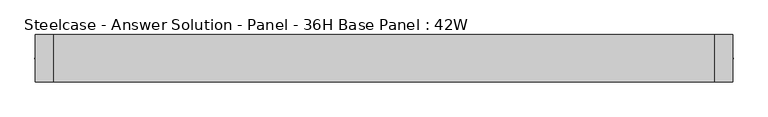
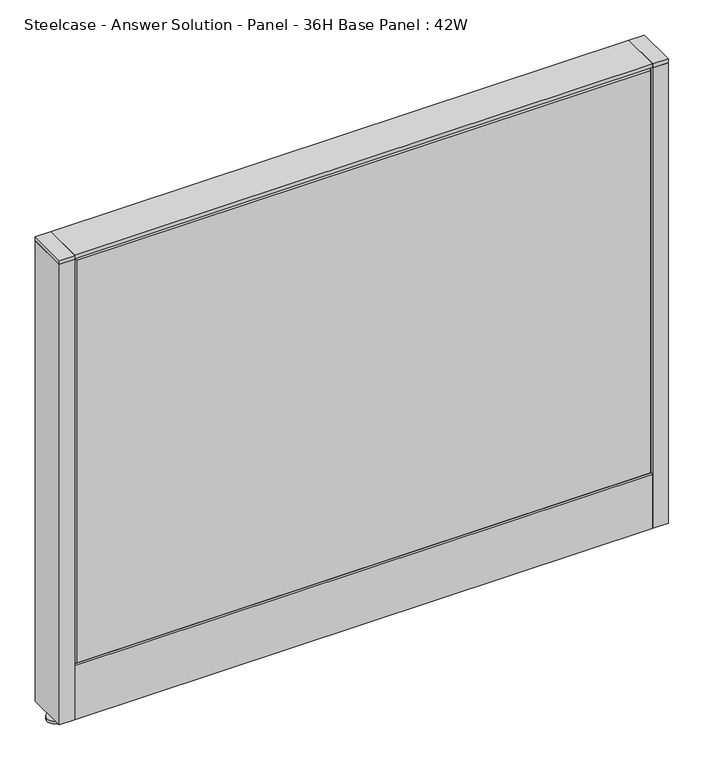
"""IFC4 building model written with IfcOpenShell, lengths in millimetres: furniture geometry, Steelcase - Answer Solution - Panel - 36H Base Panel : 42W."""

from ifc_helpers import new_model, si_unit, point, frame, frame_2d, origin, place, context, project, spatial, polyline, circle_curve, trimmed, segment, composite_curve, outline, extrude, faceted_brep, source, transform, mapped, element, save


def steelcase_answer_solution_panel_36h_base_panel_42w_82232bdf(model_context):
    return source(origin(), model_context, "Body", "SolidModel", [
        extrude(outline(composite_curve([segment(trimmed(circle_curve(frame_2d((547.624, 0.0320214)), 5.08), [point((552.704, 0.0320214))], [point((542.544, 0.0320214))], False, "CARTESIAN"), True, "CONTINUOUS"), segment(trimmed(circle_curve(frame_2d((547.624, 0.0320214)), 5.08), [point((542.544, 0.0320214))], [point((552.704, 0.0320214))], False, "CARTESIAN"), True, "CONTINUOUS")], self_intersect=False)), frame((0.0, 0.0, 5.0799671), z_axis=(0.0, 0.0, 1.0), x_axis=(1.0, 0.0, 0.0)), (0.0, 0.0, 1.0), 10.414),
        extrude(outline(composite_curve([segment(trimmed(circle_curve(frame_2d((547.624, 0.0320214)), 15.24), [point((562.864, 0.0320214))], [point((532.384, 0.0320214))], False, "CARTESIAN"), True, "CONTINUOUS"), segment(trimmed(circle_curve(frame_2d((547.624, 0.0320214)), 15.24), [point((532.384, 0.0320214))], [point((562.864, 0.0320214))], False, "CARTESIAN"), True, "CONTINUOUS")], self_intersect=False)), frame((0.0, 0.0, -3.29e-05), z_axis=(0.0, 0.0, 1.0), x_axis=(1.0, 0.0, 0.0)), (0.0, 0.0, 1.0), 5.08),
        extrude(outline(polyline([(561.975, 38.1320408), (561.975, -38.0679592), (533.4, -38.0679592), (533.4, 38.1320408), (561.975, 38.1320408)])), frame((0.0, 0.0, 913.4348), z_axis=(0.0, 0.0, 1.0), x_axis=(1.0, 0.0, 0.0)), (0.0, 0.0, 1.0), 7.3151671),
        extrude(outline(polyline([(561.975, 38.1320408), (561.975, -38.0679592), (533.4, -38.0679592), (533.4, 38.1320408), (561.975, 38.1320408)])), frame((0.0, 0.0, 15.4939671), z_axis=(0.0, 0.0, 1.0), x_axis=(1.0, 0.0, 0.0)), (0.0, 0.0, 1.0), 897.9408329),
        extrude(outline(composite_curve([segment(trimmed(circle_curve(frame_2d((-547.624, -0.0320214)), 5.08), [point((-552.704, -0.0320214))], [point((-542.544, -0.0320214))], False, "CARTESIAN"), True, "CONTINUOUS"), segment(trimmed(circle_curve(frame_2d((-547.624, -0.0320214)), 5.08), [point((-542.544, -0.0320214))], [point((-552.704, -0.0320214))], False, "CARTESIAN"), True, "CONTINUOUS")], self_intersect=False)), frame((0.0, 0.0, 5.0799671), z_axis=(0.0, 0.0, 1.0), x_axis=(1.0, 0.0, 0.0)), (0.0, 0.0, 1.0), 10.414),
        extrude(outline(composite_curve([segment(trimmed(circle_curve(frame_2d((-547.624, -0.0320214)), 15.24), [point((-562.864, -0.0320214))], [point((-532.384, -0.0320214))], False, "CARTESIAN"), True, "CONTINUOUS"), segment(trimmed(circle_curve(frame_2d((-547.624, -0.0320214)), 15.24), [point((-532.384, -0.0320214))], [point((-562.864, -0.0320214))], False, "CARTESIAN"), True, "CONTINUOUS")], self_intersect=False)), frame((0.0, 0.0, -3.29e-05), z_axis=(0.0, 0.0, 1.0), x_axis=(1.0, 0.0, 0.0)), (0.0, 0.0, 1.0), 5.08),
        extrude(outline(polyline([(-561.975, -38.1320408), (-561.975, 38.0679592), (-533.4, 38.0679592), (-533.4, -38.1320408), (-561.975, -38.1320408)])), frame((0.0, 0.0, 913.4348), z_axis=(0.0, 0.0, 1.0), x_axis=(1.0, 0.0, 0.0)), (0.0, 0.0, 1.0), 7.3151671),
        extrude(outline(polyline([(-561.975, -38.1320408), (-561.975, 38.0679592), (-533.4, 38.0679592), (-533.4, -38.1320408), (-561.975, -38.1320408)])), frame((0.0, 0.0, 15.4939671), z_axis=(0.0, 0.0, 1.0), x_axis=(1.0, 0.0, 0.0)), (0.0, 0.0, 1.0), 897.9408329),
        faceted_brep([(528.574, 38.1635011, 909.574), (528.574, 38.1635011, 125.476), (-528.574, 38.1635011, 125.476), (-528.574, 38.1635011, 909.574), (533.4, 33.3375011, 914.4), (-533.4, 33.3375011, 914.4), (-533.4, 33.3375011, 120.65), (533.4, 33.3375011, 120.65)], [[[0, 1, 2, 3]], [[4, 5, 6, 7]], [[4, 0, 3, 5]], [[5, 3, 2, 6]], [[6, 2, 1, 7]], [[7, 1, 0, 4]]]),
        faceted_brep([(528.574, -38.1635011, 909.574), (-528.574, -38.1635011, 909.574), (-528.574, -38.1635011, 125.476), (528.574, -38.1635011, 125.476), (533.4, -33.3375011, 914.4), (533.4, -33.3375011, 120.65), (-533.4, -33.3375011, 120.65), (-533.4, -33.3375011, 914.4)], [[[0, 1, 2, 3]], [[4, 5, 6, 7]], [[4, 7, 1, 0]], [[7, 6, 2, 1]], [[6, 5, 3, 2]], [[5, 4, 0, 3]]]),
        extrude(outline(polyline([(533.4, 38.1000194), (533.4, -38.1000194), (-533.4, -38.1000194), (-533.4, 38.1000194), (533.4, 38.1000194)])), frame((0.0, 0.0, 914.4), z_axis=(0.0, 0.0, 1.0), x_axis=(1.0, 0.0, 0.0)), (0.0, 0.0, 1.0), 6.35),
        extrude(outline(polyline([(37.3075215, 119.8575157), (25.4000011, 119.8575157), (25.4000011, 120.65), (38.1000194, 120.65), (38.1000194, 15.494), (37.3075215, 15.494), (37.3075215, 119.8575157)])), frame((-533.4, 0.0, 0.0), z_axis=(1.0, 0.0, 0.0), x_axis=(0.0, 1.0, 0.0)), (0.0, 0.0, 1.0), 1066.8),
        extrude(outline(polyline([(-37.3075215, 119.8575157), (-37.3075215, 15.494), (-38.1000194, 15.494), (-38.1000194, 120.65), (-25.4000011, 120.65), (-25.4000011, 119.8575157), (-37.3075215, 119.8575157)])), frame((-533.4, 0.0, 0.0), z_axis=(1.0, 0.0, 0.0), x_axis=(0.0, 1.0, 0.0)), (0.0, 0.0, 1.0), 1066.8),
    ])


if __name__ == "__main__":
    model = new_model("IFC4")
    model_context = context("Model", 3, world=origin())
    ifc_project = project(units=[si_unit("LENGTHUNIT", "METRE", prefix="MILLI")], contexts=[model_context])
    site = spatial("IfcSite", under=ifc_project)
    building = spatial("IfcBuilding", under=site)
    placement = place(None, origin())
    steelcase_answer_solution_panel_36h_base_panel_42w_shape = steelcase_answer_solution_panel_36h_base_panel_42w_82232bdf(model_context)
    element("IfcFurniture", 1, ObjectType="Steelcase - Answer Solution - Panel - 36H Base Panel : 42W", at=placement, inside=building, context=model_context, shape_type="MappedRepresentation", body=[
        mapped(steelcase_answer_solution_panel_36h_base_panel_42w_shape, transform((0.0, 0.0, 0.0), x_axis=(1.0, 0.0, 0.0), y_axis=(0.0, 1.0, 0.0), z_axis=(0.0, 0.0, 1.0))),
    ])
    save(model, "model.ifc")
